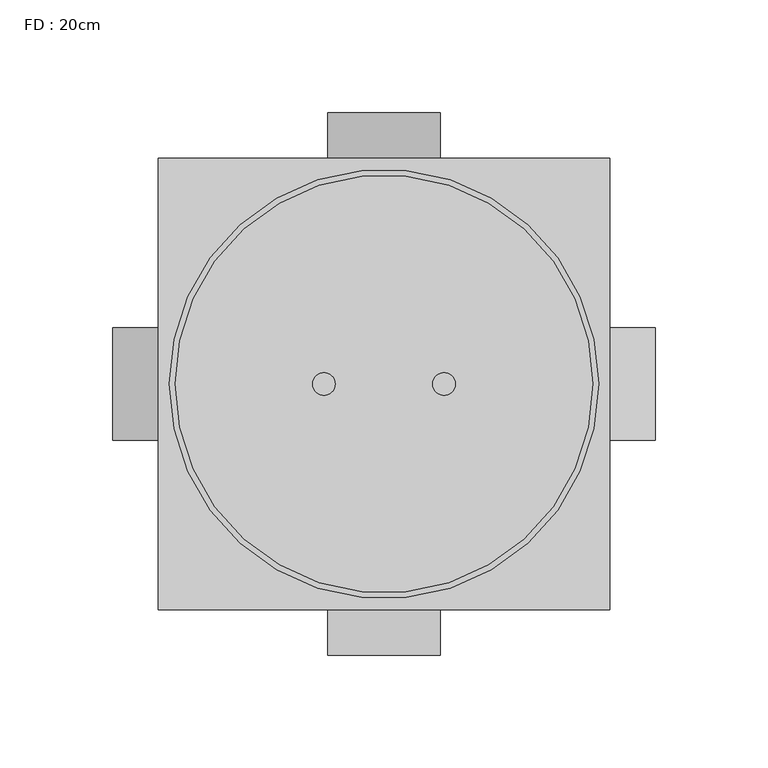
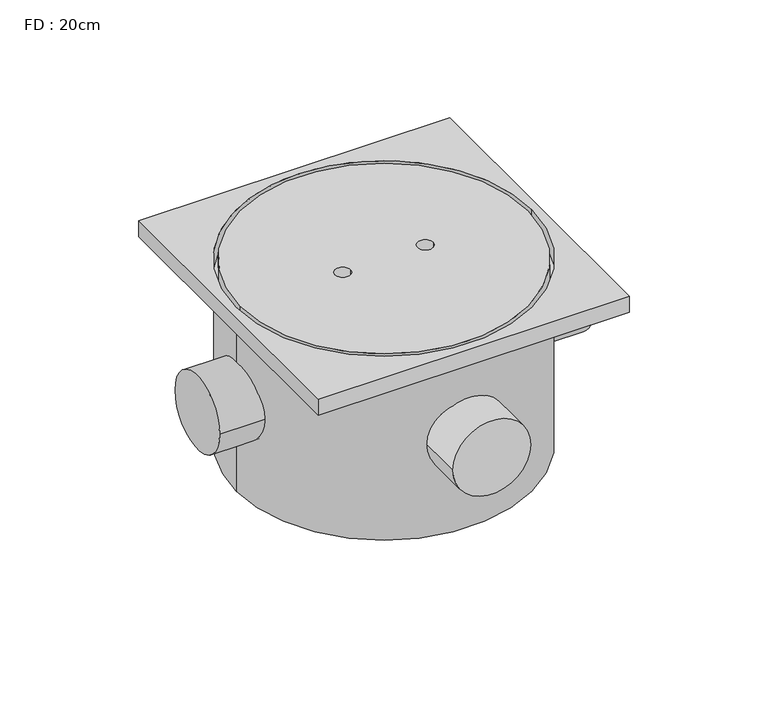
"""IFC4 building model written with IfcOpenShell, lengths in millimetres: flow terminal geometry, FD : 20cm."""

from ifc_helpers import new_model, si_unit, point, frame, frame_2d, origin, place, context, project, spatial, polyline, circle_curve, trimmed, segment, composite_curve, outline, extrude, source, transform, mapped, element, save
from ifc_brep_helpers import plane_surface, cylinder_surface, revolved_surface, advanced_brep


def fd_20cm_2b2fa0e1(model_context):
    return source(origin(), model_context, "Body", "SolidModel", [
        extrude(outline(polyline([(100.0, -24.8388451), (100.0, -224.8388451), (-100.0, -224.8388451), (-100.0, -24.8388451), (100.0, -24.8388451)]), holes=[composite_curve([segment(trimmed(circle_curve(frame_2d((0.0, -124.8388451)), 95.0), [point((-95.0, -124.8388451))], [point((95.0, -124.8388451))], True, "CARTESIAN"), True, "CONTINUOUS"), segment(trimmed(circle_curve(frame_2d((0.0, -124.8388451)), 95.0), [point((95.0, -124.8388451))], [point((-95.0, -124.8388451))], True, "CARTESIAN"), True, "CONTINUOUS")], self_intersect=False)]), frame((0.0, 0.0, -10.7801662), z_axis=(0.0, 0.0, 1.0), x_axis=(1.0, 0.0, 0.0)), (0.0, 0.0, 1.0), 10.7801662),
        extrude(outline(composite_curve([segment(trimmed(circle_curve(frame_2d((-124.8388451, -62.5)), 25.0), [point((-149.8388451, -62.5))], [point((-99.8388451, -62.5))], False, "CARTESIAN"), True, "CONTINUOUS"), segment(trimmed(circle_curve(frame_2d((-124.8388451, -62.5)), 25.0), [point((-99.8388451, -62.5))], [point((-149.8388451, -62.5))], False, "CARTESIAN"), True, "CONTINUOUS")], self_intersect=False)), frame((80.0, 0.0, 0.0), z_axis=(1.0, 0.0, 0.0), x_axis=(0.0, 1.0, 0.0)), (0.0, 0.0, 1.0), 40.0),
        extrude(outline(composite_curve([segment(trimmed(circle_curve(frame_2d((-62.5, 0.0)), 25.0), [point((-62.5, 25.0))], [point((-62.5, -25.0))], False, "CARTESIAN"), True, "CONTINUOUS"), segment(trimmed(circle_curve(frame_2d((-62.5, 0.0)), 25.0), [point((-62.5, -25.0))], [point((-62.5, 25.0))], False, "CARTESIAN"), True, "CONTINUOUS")], self_intersect=False)), frame((0.0, -44.8388451, 0.0), z_axis=(0.0, 1.0, 0.0), x_axis=(0.0, 0.0, 1.0)), (0.0, 0.0, 1.0), 40.0),
        extrude(outline(composite_curve([segment(trimmed(circle_curve(frame_2d((-124.8388451, -62.5)), 25.0), [point((-99.8388451, -62.5))], [point((-149.8388451, -62.5))], False, "CARTESIAN"), True, "CONTINUOUS"), segment(trimmed(circle_curve(frame_2d((-124.8388451, -62.5)), 25.0), [point((-149.8388451, -62.5))], [point((-99.8388451, -62.5))], False, "CARTESIAN"), True, "CONTINUOUS")], self_intersect=False)), frame((-120.0, 0.0, 0.0), z_axis=(1.0, 0.0, 0.0), x_axis=(0.0, 1.0, 0.0)), (0.0, 0.0, 1.0), 40.0),
        extrude(outline(composite_curve([segment(trimmed(circle_curve(frame_2d((-62.5, 0.0)), 25.0), [point((-62.5, -25.0))], [point((-62.5, 25.0))], False, "CARTESIAN"), True, "CONTINUOUS"), segment(trimmed(circle_curve(frame_2d((-62.5, 0.0)), 25.0), [point((-62.5, 25.0))], [point((-62.5, -25.0))], False, "CARTESIAN"), True, "CONTINUOUS")], self_intersect=False)), frame((0.0, -244.8388451, 0.0), z_axis=(0.0, 1.0, 0.0), x_axis=(0.0, 0.0, 1.0)), (0.0, 0.0, 1.0), 40.0),
        extrude(outline(composite_curve([segment(trimmed(circle_curve(frame_2d((0.0, -124.8388451)), 92.5), [point((-92.5, -124.8388451))], [point((92.5, -124.8388451))], False, "CARTESIAN"), True, "CONTINUOUS"), segment(trimmed(circle_curve(frame_2d((0.0, -124.8388451)), 92.5), [point((92.5, -124.8388451))], [point((-92.5, -124.8388451))], False, "CARTESIAN"), True, "CONTINUOUS")], self_intersect=False), holes=[composite_curve([segment(trimmed(circle_curve(frame_2d((26.5843738, -124.8388451)), 5.0), [point((21.5843738, -124.8388451))], [point((31.5843738, -124.8388451))], True, "CARTESIAN"), True, "CONTINUOUS"), segment(trimmed(circle_curve(frame_2d((26.5843738, -124.8388451)), 5.0), [point((31.5843738, -124.8388451))], [point((21.5843738, -124.8388451))], True, "CARTESIAN"), True, "CONTINUOUS")], self_intersect=False), composite_curve([segment(trimmed(circle_curve(frame_2d((-26.5843738, -124.8388451)), 5.0), [point((-31.5843738, -124.8388451))], [point((-21.5843738, -124.8388451))], True, "CARTESIAN"), True, "CONTINUOUS"), segment(trimmed(circle_curve(frame_2d((-26.5843738, -124.8388451)), 5.0), [point((-21.5843738, -124.8388451))], [point((-31.5843738, -124.8388451))], True, "CARTESIAN"), True, "CONTINUOUS")], self_intersect=False)]), frame((0.0, 0.0, -10.7801662), z_axis=(0.0, 0.0, 1.0), x_axis=(1.0, 0.0, 0.0)), (0.0, 0.0, 1.0), 10.7801662),
        advanced_brep(
        [(-95.0, -124.8388451, -10.7801662), (95.0, -124.8388451, -10.7801662), (-92.5, -124.8388451, -10.7801662), (92.5, -124.8388451, -10.7801662), (-95.0, -124.8388451, -125.0), (95.0, -124.8388451, -125.0), (92.5, -124.8388451, -120.0), (-92.5, -124.8388451, -120.0), (95.0, -124.8388451, -120.0), (-95.0, -124.8388451, -120.0)],
        [
            (0, 1, circle_curve(frame((0.0, -124.8388451, -10.7801662), z_axis=(0.0, 0.0, 1.0), x_axis=(1.0, 0.0, 0.0)), 95.0)),
            (1, 0, circle_curve(frame((0.0, -124.8388451, -10.7801662), z_axis=(0.0, 0.0, 1.0), x_axis=(1.0, 0.0, 0.0)), 95.0)),
            (2, 3, circle_curve(frame((0.0, -124.8388451, -10.7801662), z_axis=(0.0, 0.0, -1.0), x_axis=(1.0, 0.0, 0.0)), 92.5)),
            (3, 2, circle_curve(frame((0.0, -124.8388451, -10.7801662), z_axis=(0.0, 0.0, -1.0), x_axis=(1.0, 0.0, 0.0)), 92.5)),
            (4, 5, circle_curve(frame((0.0, -124.8388451, -125.0), z_axis=(0.0, 0.0, -1.0), x_axis=(1.0, 0.0, 0.0)), 95.0)),
            (5, 4, circle_curve(frame((0.0, -124.8388451, -125.0), z_axis=(0.0, 0.0, -1.0), x_axis=(1.0, 0.0, 0.0)), 95.0)),
            (3, 6),
            (6, 7, circle_curve(frame((0.0, -124.8388451, -120.0), z_axis=(0.0, 0.0, -1.0), x_axis=(1.0, 0.0, 0.0)), 92.5)),
            (7, 2),
            (7, 6, circle_curve(frame((0.0, -124.8388451, -120.0), z_axis=(0.0, 0.0, -1.0), x_axis=(1.0, 0.0, 0.0)), 92.5)),
            (1, 8),
            (8, 5),
            (4, 9),
            (9, 0),
        ],
        [
            plane_surface(frame((92.5, -124.8388451, -10.7801662), z_axis=(0.0, 0.0, 1.0), x_axis=(0.0, -1.0, 0.0))),
            plane_surface(frame((92.5, -124.8388451, -125.0), z_axis=(0.0, 0.0, -1.0), x_axis=(0.0, 1.0, 0.0))),
            revolved_surface(polyline([(92.5, -124.8388451, -120.0), (92.5, -124.8388451, -10.780166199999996)]), (0.0, -124.8388451, -125.0), (0.0, 0.0, -1.0)),
            cylinder_surface(frame((0.0, -124.8388451, 0.0), z_axis=(0.0, 0.0, 1.0), x_axis=(1.0, 0.0, 0.0)), 95.0),
            plane_surface(frame((95.0, -124.8388451, -120.0), z_axis=(0.0, 0.0, 1.0), x_axis=(0.0, 1.0, 0.0))),
        ],
        [
            (0, [[1, 2], [3, 4]]),
            (1, [[5, 6]]),
            (2, [[-4, 7, 8, 9]]),
            (2, [[-3, -9, 10, -7]]),
            (3, [[-2, 11, 12, -5, 13, 14]]),
            (3, [[-1, -14, -13, -6, -12, -11]]),
            (4, [[-8, -10]]),
        ],
    ),
    ])


if __name__ == "__main__":
    model = new_model("IFC4")
    model_context = context("Model", 3, world=origin())
    ifc_project = project(units=[si_unit("LENGTHUNIT", "METRE", prefix="MILLI")], contexts=[model_context])
    site = spatial("IfcSite", under=ifc_project)
    building = spatial("IfcBuilding", under=site)
    placement = place(None, origin())
    fd_20cm_shape = fd_20cm_2b2fa0e1(model_context)
    element("IfcFlowTerminal", 1, ObjectType="FD : 20cm", at=placement, inside=building, context=model_context, shape_type="MappedRepresentation", body=[
        mapped(fd_20cm_shape, transform((0.0, 0.0, 0.0), x_axis=(1.0, 0.0, 0.0), y_axis=(0.0, 1.0, 0.0), z_axis=(0.0, 0.0, 1.0))),
    ])
    save(model, "model.ifc")
